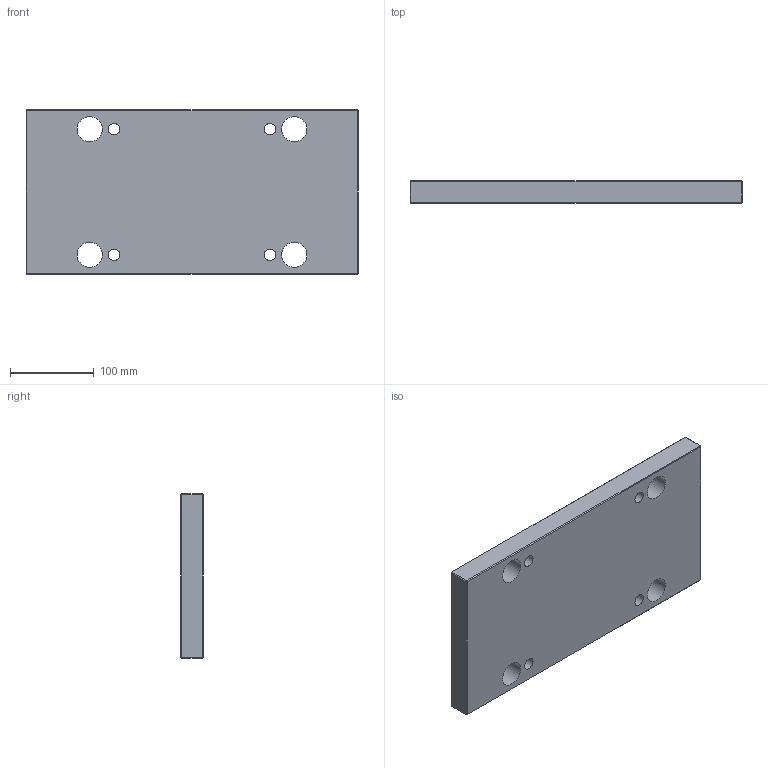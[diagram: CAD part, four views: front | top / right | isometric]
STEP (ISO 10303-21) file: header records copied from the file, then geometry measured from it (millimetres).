
FILE_DESCRIPTION(/* description */ ('STEP AP214'),/* implementation_level */ '2;1');
FILE_NAME(/* name */ 'KM0131962960271730',/* time_stamp */ '2026-06-24T12:40:16+02:00',/* author */ ('License CC BY-ND 4.0'),/* organization */ ('CADENAS'),/* preprocessor_version */ 'ST-DEVELOPER v20',/* originating_system */ 'PARTsolutions',/* authorisation */ ' ');
FILE_SCHEMA (('AUTOMOTIVE_DESIGN {1 0 10303 214 3 1 1}'));
Length unit declared in the file: millimetre
Products named in the file (1): KM0131962960271730
Bounding box: 396 x 27 x 196 mm (x, y, z)
Volume: 1991500.3 mm3; surface area: 194959.3 mm2
Topology: 1 solids, 1 shells, 34 faces, 84 edges, 56 vertices
Faces by surface type: plane 22, cylinder 12
Full cylindrical faces by diameter (mm): 14 x4, 20 x4, 30 x4
Entity records: 1014 total; most frequent: DIRECTION 166, CARTESIAN_POINT 163, ORIENTED_EDGE 144, EDGE_CURVE 72, EDGE_LOOP 66, FACE_BOUND 66, AXIS2_PLACEMENT_3D 59, VERTEX_POINT 56
